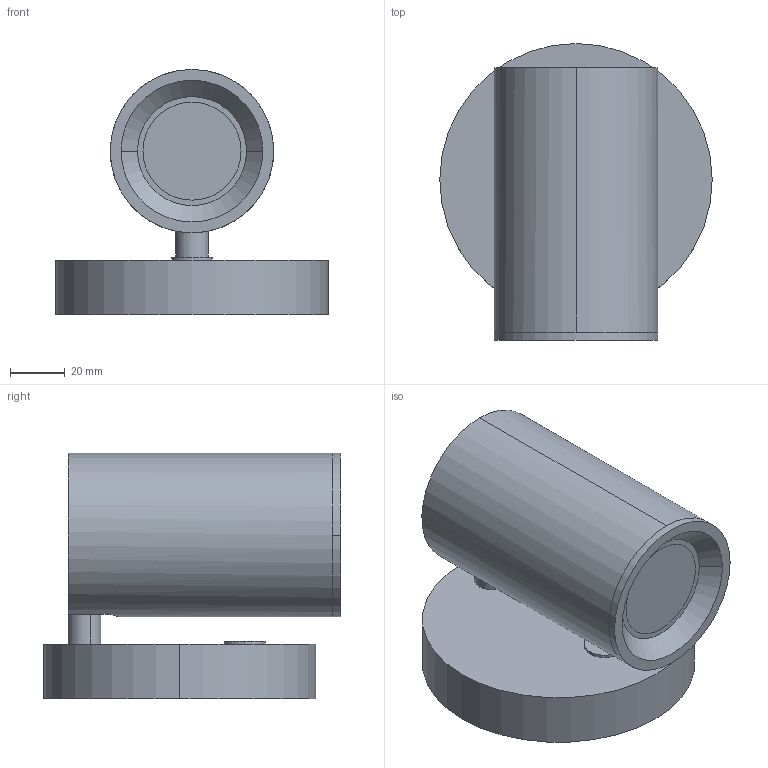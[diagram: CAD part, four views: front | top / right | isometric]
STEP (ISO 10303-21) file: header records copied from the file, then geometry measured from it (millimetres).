
FILE_DESCRIPTION (( 'STEP AP214' ), '1' );
FILE_NAME ('A1268_LATTO.STEP', '2024-02-05T11:41:00', ( '' ), ( '' ), 'SwSTEP 2.0', 'SolidWorks 2018', '' );
FILE_SCHEMA (( 'AUTOMOTIVE_DESIGN' ));
Length unit declared in the file: millimetre
Products named in the file (2): A1268_LATTO
Bounding box: 100 x 109 x 90 mm (x, y, z)
Volume: 205843.3 mm3; surface area: 76156.4 mm2
Topology: 9 solids, 9 shells, 85 faces, 193 edges, 126 vertices
Faces by surface type: cylinder 46, plane 27, torus 8, sphere 2, cone 2
Entity records: 3843 total; most frequent: CARTESIAN_POINT 856, DIRECTION 415, ORIENTED_EDGE 378, EDGE_CURVE 189, AXIS2_PLACEMENT_3D 175, VERTEX_POINT 124, EDGE_LOOP 97, UNCERTAINTY_MEASURE_WITH_UNIT 96
